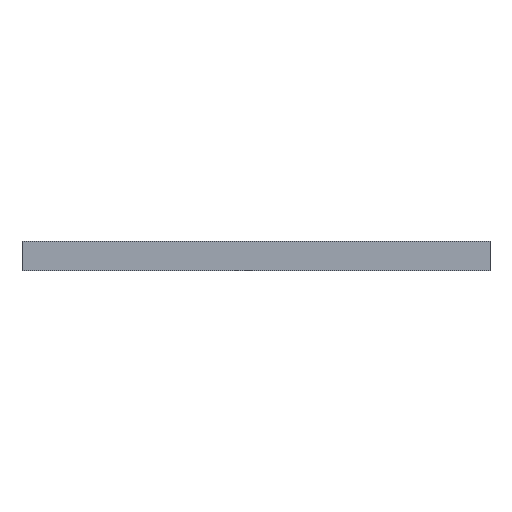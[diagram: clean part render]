
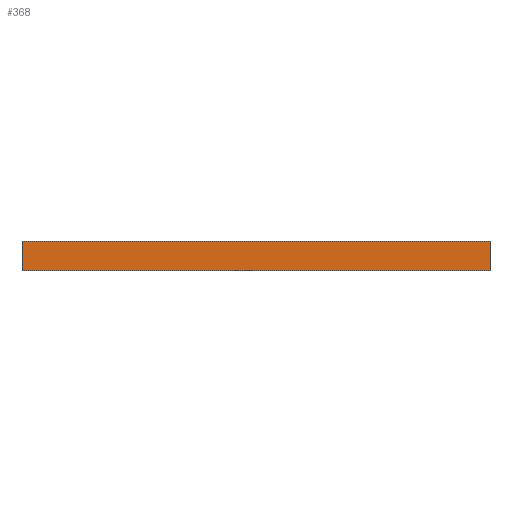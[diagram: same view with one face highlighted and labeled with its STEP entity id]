
A CAD part, front view. The second image highlights one B-rep face of the part: STEP entity #368.
In plain terms, the highlighted planar face has unit normal (0, -1, 0).
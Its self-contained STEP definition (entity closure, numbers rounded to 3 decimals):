
#262 = VERTEX_POINT ( 'NONE', #966 ) ;
#263 = VERTEX_POINT ( 'NONE', #965 ) ;
#273 = EDGE_CURVE ( 'NONE', #262, #263, #948, .T. ) ;
#311 = EDGE_CURVE ( 'NONE', #262, #533, #1320, .T. ) ;
#312 = EDGE_LOOP ( 'NONE', ( #392, #390, #369, #370 ) ) ;
#368 = ADVANCED_FACE ( 'NONE', ( #1232 ), #1231, .F. ) ;
#369 = ORIENTED_EDGE ( 'NONE', *, *, #273, .F. ) ;
#370 = ORIENTED_EDGE ( 'NONE', *, *, #311, .T. ) ;
#390 = ORIENTED_EDGE ( 'NONE', *, *, #391, .F. ) ;
#391 = EDGE_CURVE ( 'NONE', #263, #541, #1103, .T. ) ;
#392 = ORIENTED_EDGE ( 'NONE', *, *, #543, .T. ) ;
#533 = VERTEX_POINT ( 'NONE', #1140 ) ;
#541 = VERTEX_POINT ( 'NONE', #1105 ) ;
#543 = EDGE_CURVE ( 'NONE', #533, #541, #1104, .T. ) ;
#945 = DIRECTION ( 'NONE',  ( 1., 0., 0. ) ) ;
#946 = VECTOR ( 'NONE', #945, 1000. ) ;
#947 = CARTESIAN_POINT ( 'NONE',  ( -62.5, -72.5, 8. ) ) ;
#948 = LINE ( 'NONE', #947, #946 ) ;
#965 = CARTESIAN_POINT ( 'NONE',  ( 62.5, -72.5, 8. ) ) ;
#966 = CARTESIAN_POINT ( 'NONE',  ( -62.5, -72.5, 8. ) ) ;
#1100 = DIRECTION ( 'NONE',  ( 0., 0., -1. ) ) ;
#1101 = VECTOR ( 'NONE', #1100, 1000. ) ;
#1102 = CARTESIAN_POINT ( 'NONE',  ( 62.5, -72.5, 8. ) ) ;
#1103 = LINE ( 'NONE', #1102, #1101 ) ;
#1104 = LINE ( 'NONE', #1191, #1190 ) ;
#1105 = CARTESIAN_POINT ( 'NONE',  ( 62.5, -72.5, 0. ) ) ;
#1140 = CARTESIAN_POINT ( 'NONE',  ( -62.5, -72.5, 0. ) ) ;
#1189 = DIRECTION ( 'NONE',  ( 1., 0., 0. ) ) ;
#1190 = VECTOR ( 'NONE', #1189, 1000. ) ;
#1191 = CARTESIAN_POINT ( 'NONE',  ( -62.5, -72.5, 0. ) ) ;
#1227 = DIRECTION ( 'NONE',  ( 0., 0., 1. ) ) ;
#1228 = DIRECTION ( 'NONE',  ( 0., 1., 0. ) ) ;
#1229 = CARTESIAN_POINT ( 'NONE',  ( -62.5, -72.5, 8. ) ) ;
#1230 = AXIS2_PLACEMENT_3D ( 'NONE', #1229, #1228, #1227 ) ;
#1231 = PLANE ( 'NONE',  #1230 ) ;
#1232 = FACE_OUTER_BOUND ( 'NONE', #312, .T. ) ;
#1317 = DIRECTION ( 'NONE',  ( 0., 0., -1. ) ) ;
#1318 = VECTOR ( 'NONE', #1317, 1000. ) ;
#1319 = CARTESIAN_POINT ( 'NONE',  ( -62.5, -72.5, 8. ) ) ;
#1320 = LINE ( 'NONE', #1319, #1318 ) ;
